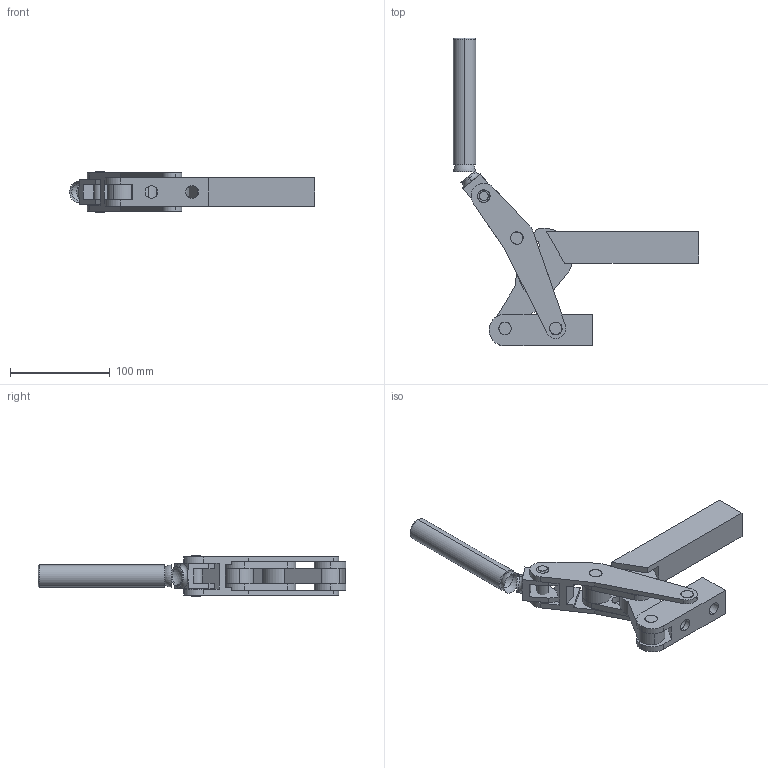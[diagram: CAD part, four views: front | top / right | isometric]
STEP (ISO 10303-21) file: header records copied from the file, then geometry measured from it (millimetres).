
FILE_DESCRIPTION( ( '' ), '1' );
FILE_NAME( 'C:\KeyCreator5.5\STEP\LYT-1035-HB.stp', ' ', ( '' ), ( '' ), 'ACIS Interop R16', 'Kubotek KeyCreator V5.5.1 (0454)', ' ' );
FILE_SCHEMA( ( 'CONFIG_CONTROL_DESIGN' ) );
Length unit declared in the file: inch
Products named in the file (15): 1; 2; 3; 4; 5; 6; 7; 8; 9; 10; 11; 12; 13; 14; 15
Bounding box: 245.43 x 308.13 x 40.89 mm (x, y, z)
Volume: 367031.2 mm3; surface area: 118190.5 mm2
Topology: 14 solids, 14 shells, 188 faces, 494 edges, 331 vertices
Faces by surface type: cylinder 90, plane 86, torus 6, cone 4, sphere 2
Entity records: 6649 total; most frequent: DIRECTION 1120, CARTESIAN_POINT 1042, ORIENTED_EDGE 980, EDGE_CURVE 490, AXIS2_PLACEMENT_3D 429, VERTEX_POINT 331, LINE 262, VECTOR 262
